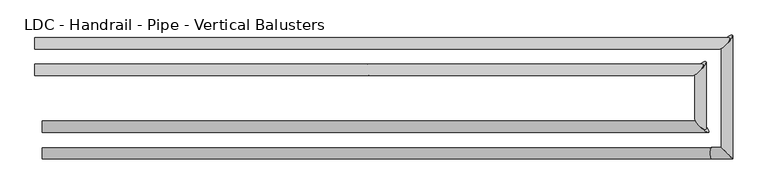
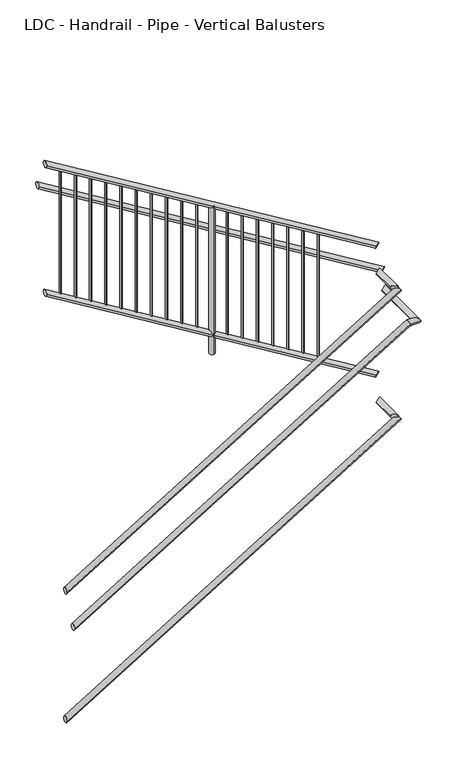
"""IFC4 building model written with IfcOpenShell, lengths in millimetres: railing geometry, LDC - Handrail - Pipe - Vertical Balusters."""

from ifc_helpers import new_model, si_unit, point, frame, frame_2d, origin, place, context, project, spatial, circle_curve, ellipse_curve, trimmed, segment, composite_curve, outline, extrude, source, transform, mapped, element, save
from ifc_brep_helpers import plane_surface, cylinder_surface, advanced_brep


def ldc_handrail_pipe_vertical_balusters_60b1d99e(model_context):
    return source(origin(), model_context, "Body", "SolidModel", [
        advanced_brep(
        [(-2909.3516552, 9306.877236, 1214.5008594), (-2909.3516552, 9344.977236, 1214.5008594), (-679.7253407, 9306.877236, 2571.109569), (-712.2739044, 9344.977236, 2551.3055037)],
        [
            (0, 1, ellipse_curve(frame((-2909.3516552, 9325.927236, 1214.5008594), z_axis=(-1.0, 0.0, 0.0), x_axis=(0.0, 0.0, -1.0)), 22.2991406, 19.05)),
            (1, 0, ellipse_curve(frame((-2909.3516552, 9325.927236, 1214.5008594), z_axis=(-1.0, 0.0, 0.0), x_axis=(0.0, 0.0, -1.0)), 22.2991406, 19.05)),
            (2, 3, ellipse_curve(frame((-695.9996225, 9325.927236, 2561.2075363), z_axis=(0.6040763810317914, 0.7071067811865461, 0.36754826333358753), x_axis=(-0.604076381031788, 0.7071067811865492, -0.36754826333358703)), 26.9407684, 19.05)),
            (3, 2, ellipse_curve(frame((-695.9996225, 9325.927236, 2561.2075363), z_axis=(0.6040763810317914, 0.7071067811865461, 0.36754826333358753), x_axis=(-0.604076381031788, 0.7071067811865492, -0.36754826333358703)), 26.9407684, 19.05)),
            (0, 2),
            (3, 1),
        ],
        [
            plane_surface(frame((-2909.3516552, 9325.927236, 1236.8), z_axis=(-1.0, 0.0, 0.0), x_axis=(0.0, 1.0, 0.0))),
            plane_surface(frame((-705.9016552, 9325.927236, 2577.4818182), z_axis=(0.6040763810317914, 0.7071067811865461, 0.36754826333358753), x_axis=(0.7969264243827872, -0.5359923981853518, -0.2786044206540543))),
            cylinder_surface(frame((-2899.4496225, 9325.927236, 1220.5257181), z_axis=(-0.8542930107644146, 0.0, -0.519791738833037), x_axis=(0.0, 1.0, 0.0)), 19.05),
        ],
        [
            (0, [[1, 2]]),
            (1, [[3, 4]]),
            (2, [[-1, 5, -4, 6]]),
            (2, [[-2, -6, -3, -5]]),
        ],
    ),
        advanced_brep(
        [(-686.8516552, 9319.5549868, 2577.75), (-724.9516552, 9352.1035505, 2577.75), (-686.8516552, 9542.6035505, 2577.75), (-724.9516552, 9510.0549868, 2577.75)],
        [
            (0, 1, ellipse_curve(frame((-705.9016552, 9335.8292686, 2577.75), z_axis=(-0.6040763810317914, -0.7071067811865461, -0.36754826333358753), x_axis=(0.6040763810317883, -0.7071067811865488, 0.36754826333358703)), 26.9407684, 19.05)),
            (1, 0, ellipse_curve(frame((-705.9016552, 9335.8292686, 2577.75), z_axis=(-0.6040763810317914, -0.7071067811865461, -0.36754826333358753), x_axis=(0.6040763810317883, -0.7071067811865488, 0.36754826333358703)), 26.9407684, 19.05)),
            (2, 3, ellipse_curve(frame((-705.9016552, 9526.3292686, 2577.75), z_axis=(-0.6040763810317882, 0.7071067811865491, 0.3675482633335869), x_axis=(-0.6040763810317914, -0.7071067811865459, 0.3675482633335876)), 26.9407684, 19.05)),
            (3, 2, ellipse_curve(frame((-705.9016552, 9526.3292686, 2577.75), z_axis=(-0.6040763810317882, 0.7071067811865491, 0.3675482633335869), x_axis=(-0.6040763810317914, -0.7071067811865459, 0.3675482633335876)), 26.9407684, 19.05)),
            (0, 2),
            (3, 1),
        ],
        [
            plane_surface(frame((-705.9016552, 9325.927236, 2596.8), z_axis=(-0.6040763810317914, -0.7071067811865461, -0.36754826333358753), x_axis=(0.7969264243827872, -0.5359923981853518, -0.2786044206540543))),
            plane_surface(frame((-705.9016552, 9516.427236, 2596.8), z_axis=(-0.6040763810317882, 0.7071067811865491, 0.3675482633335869), x_axis=(0.7969264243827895, 0.5359923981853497, 0.2786044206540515))),
            cylinder_surface(frame((-705.9016552, 9325.927236, 2577.75), z_axis=(0.0, -1.0, 0.0), x_axis=(-1.0, 0.0, 0.0)), 19.05),
        ],
        [
            (0, [[1, 2]]),
            (1, [[3, 4]]),
            (2, [[-1, 5, -4, 6]]),
            (2, [[-2, -6, -3, -5]]),
        ],
    ),
        advanced_brep(
        [(-699.5294059, 9535.477236, 2759.9418673), (-732.0779697, 9497.377236, 2779.7459326), (-2934.7516552, 9535.477236, 4119.9554048), (-2934.7516552, 9497.377236, 4119.9554048)],
        [
            (0, 1, ellipse_curve(frame((-715.8036878, 9516.427236, 2769.8439), z_axis=(0.6040763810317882, -0.7071067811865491, -0.3675482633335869), x_axis=(0.6040763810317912, 0.7071067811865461, -0.3675482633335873)), 26.9407684, 19.05)),
            (1, 0, ellipse_curve(frame((-715.8036878, 9516.427236, 2769.8439), z_axis=(0.6040763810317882, -0.7071067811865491, -0.3675482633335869), x_axis=(0.6040763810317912, 0.7071067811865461, -0.3675482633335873)), 26.9407684, 19.05)),
            (2, 3, ellipse_curve(frame((-2934.7516552, 9516.427236, 4119.9554048), z_axis=(-1.0, 0.0, 0.0), x_axis=(0.0, 0.0, -1.0)), 22.2991406, 19.05)),
            (3, 2, ellipse_curve(frame((-2934.7516552, 9516.427236, 4119.9554048), z_axis=(-1.0, 0.0, 0.0), x_axis=(0.0, 0.0, -1.0)), 22.2991406, 19.05)),
            (0, 2),
            (3, 1),
        ],
        [
            plane_surface(frame((-705.9016552, 9516.427236, 2786.1181818), z_axis=(0.6040763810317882, -0.7071067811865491, -0.3675482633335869), x_axis=(0.7969264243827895, 0.5359923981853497, 0.2786044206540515))),
            plane_surface(frame((-2934.7516552, 9516.427236, 4142.2545455), z_axis=(-1.0, 0.0, 0.0), x_axis=(0.0, -1.0, 0.0))),
            cylinder_surface(frame((-715.8036878, 9516.427236, 2769.8439), z_axis=(0.8542930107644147, 0.0, -0.5197917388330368), x_axis=(0.0, -1.0, 0.0)), 19.05),
        ],
        [
            (0, [[1, 2]]),
            (1, [[3, 4]]),
            (2, [[-1, 5, -4, 6]]),
            (2, [[-2, -6, -3, -5]]),
        ],
    ),
        advanced_brep(
        [(-2909.3516552, 9306.877236, 304.8633594), (-2909.3516552, 9344.977236, 304.8633594), (-679.7253407, 9306.877236, 1661.472069), (-712.2739044, 9344.977236, 1641.6680037)],
        [
            (0, 1, ellipse_curve(frame((-2909.3516552, 9325.927236, 304.8633594), z_axis=(-1.0, 0.0, 0.0), x_axis=(0.0, 0.0, -1.0)), 22.2991406, 19.05)),
            (1, 0, ellipse_curve(frame((-2909.3516552, 9325.927236, 304.8633594), z_axis=(-1.0, 0.0, 0.0), x_axis=(0.0, 0.0, -1.0)), 22.2991406, 19.05)),
            (2, 3, ellipse_curve(frame((-695.9996225, 9325.927236, 1651.5700363), z_axis=(0.6040763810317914, 0.7071067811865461, 0.3675482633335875), x_axis=(-0.6040763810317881, 0.7071067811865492, -0.367548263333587)), 26.9407684, 19.05)),
            (3, 2, ellipse_curve(frame((-695.9996225, 9325.927236, 1651.5700363), z_axis=(0.6040763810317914, 0.7071067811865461, 0.3675482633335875), x_axis=(-0.6040763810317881, 0.7071067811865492, -0.367548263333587)), 26.9407684, 19.05)),
            (0, 2),
            (3, 1),
        ],
        [
            plane_surface(frame((-2909.3516552, 9325.927236, 327.1625), z_axis=(-1.0, 0.0, 0.0), x_axis=(0.0, 1.0, 0.0))),
            plane_surface(frame((-705.9016552, 9325.927236, 1667.8443182), z_axis=(0.6040763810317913, 0.707106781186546, 0.3675482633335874), x_axis=(0.796926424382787, -0.5359923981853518, -0.2786044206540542))),
            cylinder_surface(frame((-2899.4496225, 9325.927236, 310.8882181), z_axis=(-0.8542930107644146, 0.0, -0.5197917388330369), x_axis=(0.0, 1.0, 0.0)), 19.05),
        ],
        [
            (0, [[1, 2]]),
            (1, [[3, 4]]),
            (2, [[-1, 5, -4, 6]]),
            (2, [[-2, -6, -3, -5]]),
        ],
    ),
        advanced_brep(
        [(-686.8516552, 9319.5549868, 1668.1125), (-724.9516552, 9352.1035505, 1668.1125), (-686.8516552, 9542.6035505, 1668.1125), (-724.9516552, 9510.0549868, 1668.1125)],
        [
            (0, 1, ellipse_curve(frame((-705.9016552, 9335.8292686, 1668.1125), z_axis=(-0.6040763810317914, -0.7071067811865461, -0.3675482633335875), x_axis=(0.6040763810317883, -0.7071067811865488, 0.3675482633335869)), 26.9407684, 19.05)),
            (1, 0, ellipse_curve(frame((-705.9016552, 9335.8292686, 1668.1125), z_axis=(-0.6040763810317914, -0.7071067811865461, -0.3675482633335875), x_axis=(0.6040763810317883, -0.7071067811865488, 0.3675482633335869)), 26.9407684, 19.05)),
            (2, 3, ellipse_curve(frame((-705.9016552, 9526.3292686, 1668.1125), z_axis=(-0.6040763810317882, 0.7071067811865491, 0.3675482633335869), x_axis=(-0.6040763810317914, -0.7071067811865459, 0.3675482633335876)), 26.9407684, 19.05)),
            (3, 2, ellipse_curve(frame((-705.9016552, 9526.3292686, 1668.1125), z_axis=(-0.6040763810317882, 0.7071067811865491, 0.3675482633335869), x_axis=(-0.6040763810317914, -0.7071067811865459, 0.3675482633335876)), 26.9407684, 19.05)),
            (0, 2),
            (3, 1),
        ],
        [
            plane_surface(frame((-705.9016552, 9325.927236, 1687.1625), z_axis=(-0.6040763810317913, -0.707106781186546, -0.3675482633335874), x_axis=(0.796926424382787, -0.5359923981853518, -0.2786044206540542))),
            plane_surface(frame((-705.9016552, 9516.427236, 1687.1625), z_axis=(-0.6040763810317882, 0.7071067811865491, 0.3675482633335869), x_axis=(0.7969264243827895, 0.5359923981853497, 0.2786044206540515))),
            cylinder_surface(frame((-705.9016552, 9325.927236, 1668.1125), z_axis=(0.0, -1.0, 0.0), x_axis=(-1.0, 0.0, 0.0)), 19.05),
        ],
        [
            (0, [[1, 2]]),
            (1, [[3, 4]]),
            (2, [[-1, 5, -4, 6]]),
            (2, [[-2, -6, -3, -5]]),
        ],
    ),
        advanced_brep(
        [(-699.5294059, 9535.477236, 1850.3043673), (-732.0779697, 9497.377236, 1870.1084326), (-2934.7516552, 9535.477236, 3210.3179048), (-2934.7516552, 9497.377236, 3210.3179048)],
        [
            (0, 1, ellipse_curve(frame((-715.8036878, 9516.427236, 1860.2064), z_axis=(0.6040763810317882, -0.7071067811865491, -0.3675482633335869), x_axis=(0.6040763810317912, 0.7071067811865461, -0.3675482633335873)), 26.9407684, 19.05)),
            (1, 0, ellipse_curve(frame((-715.8036878, 9516.427236, 1860.2064), z_axis=(0.6040763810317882, -0.7071067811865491, -0.3675482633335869), x_axis=(0.6040763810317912, 0.7071067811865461, -0.3675482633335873)), 26.9407684, 19.05)),
            (2, 3, ellipse_curve(frame((-2934.7516552, 9516.427236, 3210.3179048), z_axis=(-1.0, 0.0, 0.0), x_axis=(0.0, 0.0, -1.0)), 22.2991406, 19.05)),
            (3, 2, ellipse_curve(frame((-2934.7516552, 9516.427236, 3210.3179048), z_axis=(-1.0, 0.0, 0.0), x_axis=(0.0, 0.0, -1.0)), 22.2991406, 19.05)),
            (0, 2),
            (3, 1),
        ],
        [
            plane_surface(frame((-705.9016552, 9516.427236, 1876.4806818), z_axis=(0.6040763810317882, -0.7071067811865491, -0.3675482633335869), x_axis=(0.7969264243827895, 0.5359923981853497, 0.2786044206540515))),
            plane_surface(frame((-2934.7516552, 9516.427236, 3232.6170455), z_axis=(-1.0, 0.0, 0.0), x_axis=(0.0, -1.0, 0.0))),
            cylinder_surface(frame((-715.8036878, 9516.427236, 1860.2064), z_axis=(0.8542930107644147, 0.0, -0.5197917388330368), x_axis=(0.0, -1.0, 0.0)), 19.05),
        ],
        [
            (0, [[1, 2]]),
            (1, [[3, 4]]),
            (2, [[-1, 5, -4, 6]]),
            (2, [[-2, -6, -3, -5]]),
        ],
    ),
        advanced_brep(
        [(-2909.3516552, 9217.977236, 1011.3008594), (-2909.3516552, 9256.077236, 1011.3008594), (-668.811597, 9217.977236, 2374.55), (-668.811597, 9256.077236, 2374.55), (-597.9516552, 9217.977236, 2374.55), (-636.0516552, 9256.077236, 2374.55), (-597.9516552, 9631.5035505, 2374.55), (-636.0516552, 9598.9549868, 2374.55)],
        [
            (0, 1, ellipse_curve(frame((-2909.3516552, 9237.027236, 1011.3008594), z_axis=(-1.0, 0.0, 0.0), x_axis=(0.0, 0.0, -1.0)), 22.2991406, 19.05)),
            (1, 0, ellipse_curve(frame((-2909.3516552, 9237.027236, 1011.3008594), z_axis=(-1.0, 0.0, 0.0), x_axis=(0.0, 0.0, -1.0)), 22.2991406, 19.05)),
            (0, 2),
            (2, 3, ellipse_curve(frame((-668.811597, 9237.027236, 2374.55), z_axis=(-0.9628844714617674, 0.0, -0.2699138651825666), x_axis=(0.2699138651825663, 0.0, -0.9628844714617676)), 19.7843049, 19.05)),
            (3, 1),
            (3, 2, ellipse_curve(frame((-668.811597, 9237.027236, 2374.55), z_axis=(-0.9628844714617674, 0.0, -0.2699138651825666), x_axis=(0.2699138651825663, 0.0, -0.9628844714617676)), 19.7843049, 19.05)),
            (2, 4),
            (4, 5, ellipse_curve(frame((-617.0016552, 9237.027236, 2374.55), z_axis=(-0.7071067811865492, -0.7071067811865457, 0.0), x_axis=(-0.7071067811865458, 0.7071067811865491, 0.0)), 26.9407684, 19.05)),
            (5, 3),
            (5, 4, ellipse_curve(frame((-617.0016552, 9237.027236, 2374.55), z_axis=(-0.7071067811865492, -0.7071067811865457, 0.0), x_axis=(-0.7071067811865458, 0.7071067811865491, 0.0)), 26.9407684, 19.05)),
            (6, 7, ellipse_curve(frame((-617.0016552, 9615.2292686, 2374.55), z_axis=(-0.6040763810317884, 0.7071067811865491, 0.3675482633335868), x_axis=(-0.6040763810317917, -0.7071067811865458, 0.36754826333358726)), 26.9407684, 19.05)),
            (7, 6, ellipse_curve(frame((-617.0016552, 9615.2292686, 2374.55), z_axis=(-0.6040763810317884, 0.7071067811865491, 0.3675482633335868), x_axis=(-0.6040763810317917, -0.7071067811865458, 0.36754826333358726)), 26.9407684, 19.05)),
            (4, 6),
            (7, 5),
        ],
        [
            plane_surface(frame((-2909.3516552, 9237.027236, 1033.6), z_axis=(-1.0, 0.0, 0.0), x_axis=(0.0, 1.0, 0.0))),
            cylinder_surface(frame((-2899.4496225, 9237.027236, 1017.3257181), z_axis=(-0.8542930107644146, 0.0, -0.5197917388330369), x_axis=(0.0, 1.0, 0.0)), 19.05),
            cylinder_surface(frame((-674.1516552, 9237.027236, 2374.55), z_axis=(-1.0, 0.0, 0.0), x_axis=(0.0, 1.0, 0.0)), 19.05),
            plane_surface(frame((-617.0016552, 9605.327236, 2393.6), z_axis=(-0.6040763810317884, 0.7071067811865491, 0.3675482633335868), x_axis=(0.7969264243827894, 0.5359923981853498, 0.2786044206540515))),
            cylinder_surface(frame((-617.0016552, 9237.027236, 2374.55), z_axis=(0.0, -1.0, 0.0), x_axis=(-1.0, 0.0, 0.0)), 19.05),
        ],
        [
            (0, [[1, 2]]),
            (1, [[-1, 3, 4, 5]]),
            (1, [[-2, -5, 6, -3]]),
            (2, [[-4, 7, 8, 9]]),
            (2, [[-6, -9, 10, -7]]),
            (3, [[11, 12]]),
            (4, [[-8, 13, -12, 14]]),
            (4, [[-10, -14, -11, -13]]),
        ],
    ),
        advanced_brep(
        [(-610.6294059, 9624.377236, 2502.6509582), (-643.1779697, 9586.277236, 2522.4550235), (-2934.7516552, 9624.377236, 3916.7554048), (-2934.7516552, 9586.277236, 3916.7554048)],
        [
            (0, 1, ellipse_curve(frame((-626.9036878, 9605.327236, 2512.5529909), z_axis=(0.6040763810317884, -0.7071067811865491, -0.3675482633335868), x_axis=(0.6040763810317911, 0.7071067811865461, -0.3675482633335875)), 26.9407684, 19.05)),
            (1, 0, ellipse_curve(frame((-626.9036878, 9605.327236, 2512.5529909), z_axis=(0.6040763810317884, -0.7071067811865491, -0.3675482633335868), x_axis=(0.6040763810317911, 0.7071067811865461, -0.3675482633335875)), 26.9407684, 19.05)),
            (2, 3, ellipse_curve(frame((-2934.7516552, 9605.327236, 3916.7554048), z_axis=(-1.0, 0.0, 0.0), x_axis=(0.0, 0.0, -1.0)), 22.2991406, 19.05)),
            (3, 2, ellipse_curve(frame((-2934.7516552, 9605.327236, 3916.7554048), z_axis=(-1.0, 0.0, 0.0), x_axis=(0.0, 0.0, -1.0)), 22.2991406, 19.05)),
            (0, 2),
            (3, 1),
        ],
        [
            plane_surface(frame((-617.0016552, 9605.327236, 2528.8272727), z_axis=(0.6040763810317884, -0.7071067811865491, -0.3675482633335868), x_axis=(0.7969264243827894, 0.5359923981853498, 0.2786044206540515))),
            plane_surface(frame((-2934.7516552, 9605.327236, 3939.0545455), z_axis=(-1.0, 0.0, 0.0), x_axis=(0.0, -1.0, 0.0))),
            cylinder_surface(frame((-626.9036878, 9605.327236, 2512.5529909), z_axis=(0.8542930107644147, 0.0, -0.5197917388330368), x_axis=(0.0, -1.0, 0.0)), 19.05),
        ],
        [
            (0, [[1, 2]]),
            (1, [[3, 4]]),
            (2, [[-1, 5, -4, 6]]),
            (2, [[-2, -6, -3, -5]]),
        ],
    ),
        advanced_brep(
        [(-2833.4402915, 9510.077236, 4036.0608883), (-2833.4402915, 9522.777236, 4036.0608883), (-2833.4402915, 9522.777236, 3170.9744835), (-2833.4402915, 9510.077236, 3170.9744835)],
        [
            (0, 1, ellipse_curve(frame((-2833.4402915, 9516.427236, 4036.0608883), z_axis=(-0.5183017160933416, 0.0, -0.8551978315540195), x_axis=(-0.8551978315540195, 0.0, 0.5183017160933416)), 7.4251825, 6.35)),
            (1, 2),
            (2, 3, ellipse_curve(frame((-2833.4402915, 9516.427236, 3170.9744835), z_axis=(0.5183017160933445, 0.0, 0.8551978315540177), x_axis=(-0.8551978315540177, 0.0, 0.5183017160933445)), 7.4251825, 6.35)),
            (3, 0),
            (3, 2, ellipse_curve(frame((-2833.4402915, 9516.427236, 3170.9744835), z_axis=(0.5183017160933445, 0.0, 0.8551978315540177), x_axis=(-0.8551978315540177, 0.0, 0.5183017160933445)), 7.4251825, 6.35)),
            (1, 0, ellipse_curve(frame((-2833.4402915, 9516.427236, 4036.0608883), z_axis=(-0.5183017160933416, 0.0, -0.8551978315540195), x_axis=(-0.8551978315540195, 0.0, 0.5183017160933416)), 7.4251825, 6.35)),
        ],
        [
            cylinder_surface(frame((-2833.4402915, 9516.427236, 2942.3744835), z_axis=(0.0, 0.0, 1.0), x_axis=(0.0, 1.0, 0.0)), 6.35),
            plane_surface(frame((-2846.1402915, 9529.127236, 4043.757858), z_axis=(0.5183017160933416, 0.0, 0.8551978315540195), x_axis=(0.0, -1.0, 0.0))),
            plane_surface(frame((-2820.7402915, 9529.127236, 3163.2775138), z_axis=(-0.5183017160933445, 0.0, -0.8551978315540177), x_axis=(0.0, -1.0, 0.0))),
        ],
        [
            (0, [[1, 2, 3, 4]]),
            (0, [[5, -2, 6, -4]]),
            (1, [[-6, -1]]),
            (2, [[-5, -3]]),
        ],
    ),
        advanced_brep(
        [(-2732.1289279, 9510.077236, 3974.4183263), (-2732.1289279, 9522.777236, 3974.4183263), (-2732.1289279, 9522.777236, 3109.3319215), (-2732.1289279, 9510.077236, 3109.3319215)],
        [
            (0, 1, ellipse_curve(frame((-2732.1289279, 9516.427236, 3974.4183263), z_axis=(-0.5183017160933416, 0.0, -0.8551978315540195), x_axis=(-0.8551978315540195, 0.0, 0.5183017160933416)), 7.4251825, 6.35)),
            (1, 2),
            (2, 3, ellipse_curve(frame((-2732.1289279, 9516.427236, 3109.3319215), z_axis=(0.5183017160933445, 0.0, 0.8551978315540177), x_axis=(-0.8551978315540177, 0.0, 0.5183017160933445)), 7.4251825, 6.35)),
            (3, 0),
            (3, 2, ellipse_curve(frame((-2732.1289279, 9516.427236, 3109.3319215), z_axis=(0.5183017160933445, 0.0, 0.8551978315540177), x_axis=(-0.8551978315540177, 0.0, 0.5183017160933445)), 7.4251825, 6.35)),
            (1, 0, ellipse_curve(frame((-2732.1289279, 9516.427236, 3974.4183263), z_axis=(-0.5183017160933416, 0.0, -0.8551978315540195), x_axis=(-0.8551978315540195, 0.0, 0.5183017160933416)), 7.4251825, 6.35)),
        ],
        [
            cylinder_surface(frame((-2732.1289279, 9516.427236, 2880.7319215), z_axis=(0.0, 0.0, 1.0), x_axis=(0.0, 1.0, 0.0)), 6.35),
            plane_surface(frame((-2744.8289279, 9529.127236, 3982.115296), z_axis=(0.5183017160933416, 0.0, 0.8551978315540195), x_axis=(0.0, -1.0, 0.0))),
            plane_surface(frame((-2719.4289279, 9529.127236, 3101.6349518), z_axis=(-0.5183017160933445, 0.0, -0.8551978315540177), x_axis=(0.0, -1.0, 0.0))),
        ],
        [
            (0, [[1, 2, 3, 4]]),
            (0, [[5, -2, 6, -4]]),
            (1, [[-6, -1]]),
            (2, [[-5, -3]]),
        ],
    ),
        advanced_brep(
        [(-2630.8175643, 9510.077236, 3912.7757643), (-2630.8175643, 9522.777236, 3912.7757643), (-2630.8175643, 9522.777236, 3047.6893595), (-2630.8175643, 9510.077236, 3047.6893595)],
        [
            (0, 1, ellipse_curve(frame((-2630.8175643, 9516.427236, 3912.7757643), z_axis=(-0.5183017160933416, 0.0, -0.8551978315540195), x_axis=(-0.8551978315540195, 0.0, 0.5183017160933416)), 7.4251825, 6.35)),
            (1, 2),
            (2, 3, ellipse_curve(frame((-2630.8175643, 9516.427236, 3047.6893595), z_axis=(0.5183017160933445, 0.0, 0.8551978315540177), x_axis=(-0.8551978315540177, 0.0, 0.5183017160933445)), 7.4251825, 6.35)),
            (3, 0),
            (3, 2, ellipse_curve(frame((-2630.8175643, 9516.427236, 3047.6893595), z_axis=(0.5183017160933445, 0.0, 0.8551978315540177), x_axis=(-0.8551978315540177, 0.0, 0.5183017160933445)), 7.4251825, 6.35)),
            (1, 0, ellipse_curve(frame((-2630.8175643, 9516.427236, 3912.7757643), z_axis=(-0.5183017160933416, 0.0, -0.8551978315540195), x_axis=(-0.8551978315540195, 0.0, 0.5183017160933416)), 7.4251825, 6.35)),
        ],
        [
            cylinder_surface(frame((-2630.8175643, 9516.427236, 2819.0893595), z_axis=(0.0, 0.0, 1.0), x_axis=(0.0, 1.0, 0.0)), 6.35),
            plane_surface(frame((-2643.5175643, 9529.127236, 3920.472734), z_axis=(0.5183017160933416, 0.0, 0.8551978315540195), x_axis=(0.0, -1.0, 0.0))),
            plane_surface(frame((-2618.1175643, 9529.127236, 3039.9923898), z_axis=(-0.5183017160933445, 0.0, -0.8551978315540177), x_axis=(0.0, -1.0, 0.0))),
        ],
        [
            (0, [[1, 2, 3, 4]]),
            (0, [[5, -2, 6, -4]]),
            (1, [[-6, -1]]),
            (2, [[-5, -3]]),
        ],
    ),
        advanced_brep(
        [(-2529.5062006, 9510.077236, 3851.1332023), (-2529.5062006, 9522.777236, 3851.1332023), (-2529.5062006, 9522.777236, 2986.0467975), (-2529.5062006, 9510.077236, 2986.0467975)],
        [
            (0, 1, ellipse_curve(frame((-2529.5062006, 9516.427236, 3851.1332023), z_axis=(-0.5183017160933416, 0.0, -0.8551978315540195), x_axis=(-0.8551978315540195, 0.0, 0.5183017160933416)), 7.4251825, 6.35)),
            (1, 2),
            (2, 3, ellipse_curve(frame((-2529.5062006, 9516.427236, 2986.0467975), z_axis=(0.5183017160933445, 0.0, 0.8551978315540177), x_axis=(-0.8551978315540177, 0.0, 0.5183017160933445)), 7.4251825, 6.35)),
            (3, 0),
            (3, 2, ellipse_curve(frame((-2529.5062006, 9516.427236, 2986.0467975), z_axis=(0.5183017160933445, 0.0, 0.8551978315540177), x_axis=(-0.8551978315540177, 0.0, 0.5183017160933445)), 7.4251825, 6.35)),
            (1, 0, ellipse_curve(frame((-2529.5062006, 9516.427236, 3851.1332023), z_axis=(-0.5183017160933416, 0.0, -0.8551978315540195), x_axis=(-0.8551978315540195, 0.0, 0.5183017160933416)), 7.4251825, 6.35)),
        ],
        [
            cylinder_surface(frame((-2529.5062006, 9516.427236, 2757.4467975), z_axis=(0.0, 0.0, 1.0), x_axis=(0.0, 1.0, 0.0)), 6.35),
            plane_surface(frame((-2542.2062006, 9529.127236, 3858.830172), z_axis=(0.5183017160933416, 0.0, 0.8551978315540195), x_axis=(0.0, -1.0, 0.0))),
            plane_surface(frame((-2516.8062006, 9529.127236, 2978.3498278), z_axis=(-0.5183017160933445, 0.0, -0.8551978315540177), x_axis=(0.0, -1.0, 0.0))),
        ],
        [
            (0, [[1, 2, 3, 4]]),
            (0, [[5, -2, 6, -4]]),
            (1, [[-6, -1]]),
            (2, [[-5, -3]]),
        ],
    ),
        advanced_brep(
        [(-2428.194837, 9510.077236, 3789.4906403), (-2428.194837, 9522.777236, 3789.4906403), (-2428.194837, 9522.777236, 2924.4042355), (-2428.194837, 9510.077236, 2924.4042355)],
        [
            (0, 1, ellipse_curve(frame((-2428.194837, 9516.427236, 3789.4906403), z_axis=(-0.5183017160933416, 0.0, -0.8551978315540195), x_axis=(-0.8551978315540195, 0.0, 0.5183017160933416)), 7.4251825, 6.35)),
            (1, 2),
            (2, 3, ellipse_curve(frame((-2428.194837, 9516.427236, 2924.4042355), z_axis=(0.5183017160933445, 0.0, 0.8551978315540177), x_axis=(-0.8551978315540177, 0.0, 0.5183017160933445)), 7.4251825, 6.35)),
            (3, 0),
            (3, 2, ellipse_curve(frame((-2428.194837, 9516.427236, 2924.4042355), z_axis=(0.5183017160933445, 0.0, 0.8551978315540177), x_axis=(-0.8551978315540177, 0.0, 0.5183017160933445)), 7.4251825, 6.35)),
            (1, 0, ellipse_curve(frame((-2428.194837, 9516.427236, 3789.4906403), z_axis=(-0.5183017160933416, 0.0, -0.8551978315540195), x_axis=(-0.8551978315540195, 0.0, 0.5183017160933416)), 7.4251825, 6.35)),
        ],
        [
            cylinder_surface(frame((-2428.194837, 9516.427236, 2695.8042355), z_axis=(0.0, 0.0, 1.0), x_axis=(0.0, 1.0, 0.0)), 6.35),
            plane_surface(frame((-2440.894837, 9529.127236, 3797.18761), z_axis=(0.5183017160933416, 0.0, 0.8551978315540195), x_axis=(0.0, -1.0, 0.0))),
            plane_surface(frame((-2415.494837, 9529.127236, 2916.7072658), z_axis=(-0.5183017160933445, 0.0, -0.8551978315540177), x_axis=(0.0, -1.0, 0.0))),
        ],
        [
            (0, [[1, 2, 3, 4]]),
            (0, [[5, -2, 6, -4]]),
            (1, [[-6, -1]]),
            (2, [[-5, -3]]),
        ],
    ),
        advanced_brep(
        [(-2326.8834734, 9510.077236, 3727.8480784), (-2326.8834734, 9522.777236, 3727.8480784), (-2326.8834734, 9522.777236, 2862.7616736), (-2326.8834734, 9510.077236, 2862.7616736)],
        [
            (0, 1, ellipse_curve(frame((-2326.8834734, 9516.427236, 3727.8480784), z_axis=(-0.5183017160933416, 0.0, -0.8551978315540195), x_axis=(-0.8551978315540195, 0.0, 0.5183017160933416)), 7.4251825, 6.35)),
            (1, 2),
            (2, 3, ellipse_curve(frame((-2326.8834734, 9516.427236, 2862.7616736), z_axis=(0.5183017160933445, 0.0, 0.8551978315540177), x_axis=(-0.8551978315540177, 0.0, 0.5183017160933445)), 7.4251825, 6.35)),
            (3, 0),
            (3, 2, ellipse_curve(frame((-2326.8834734, 9516.427236, 2862.7616736), z_axis=(0.5183017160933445, 0.0, 0.8551978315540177), x_axis=(-0.8551978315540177, 0.0, 0.5183017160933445)), 7.4251825, 6.35)),
            (1, 0, ellipse_curve(frame((-2326.8834734, 9516.427236, 3727.8480784), z_axis=(-0.5183017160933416, 0.0, -0.8551978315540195), x_axis=(-0.8551978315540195, 0.0, 0.5183017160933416)), 7.4251825, 6.35)),
        ],
        [
            cylinder_surface(frame((-2326.8834734, 9516.427236, 2634.1616736), z_axis=(0.0, 0.0, 1.0), x_axis=(0.0, 1.0, 0.0)), 6.35),
            plane_surface(frame((-2339.5834734, 9529.127236, 3735.5450481), z_axis=(0.5183017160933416, 0.0, 0.8551978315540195), x_axis=(0.0, -1.0, 0.0))),
            plane_surface(frame((-2314.1834734, 9529.127236, 2855.0647039), z_axis=(-0.5183017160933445, 0.0, -0.8551978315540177), x_axis=(0.0, -1.0, 0.0))),
        ],
        [
            (0, [[1, 2, 3, 4]]),
            (0, [[5, -2, 6, -4]]),
            (1, [[-6, -1]]),
            (2, [[-5, -3]]),
        ],
    ),
        advanced_brep(
        [(-2225.5721097, 9510.077236, 3666.2055164), (-2225.5721097, 9522.777236, 3666.2055164), (-2225.5721097, 9522.777236, 2801.1191116), (-2225.5721097, 9510.077236, 2801.1191116)],
        [
            (0, 1, ellipse_curve(frame((-2225.5721097, 9516.427236, 3666.2055164), z_axis=(-0.5183017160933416, 0.0, -0.8551978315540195), x_axis=(-0.8551978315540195, 0.0, 0.5183017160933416)), 7.4251825, 6.35)),
            (1, 2),
            (2, 3, ellipse_curve(frame((-2225.5721097, 9516.427236, 2801.1191116), z_axis=(0.5183017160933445, 0.0, 0.8551978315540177), x_axis=(-0.8551978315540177, 0.0, 0.5183017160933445)), 7.4251825, 6.35)),
            (3, 0),
            (3, 2, ellipse_curve(frame((-2225.5721097, 9516.427236, 2801.1191116), z_axis=(0.5183017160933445, 0.0, 0.8551978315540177), x_axis=(-0.8551978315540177, 0.0, 0.5183017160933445)), 7.4251825, 6.35)),
            (1, 0, ellipse_curve(frame((-2225.5721097, 9516.427236, 3666.2055164), z_axis=(-0.5183017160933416, 0.0, -0.8551978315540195), x_axis=(-0.8551978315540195, 0.0, 0.5183017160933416)), 7.4251825, 6.35)),
        ],
        [
            cylinder_surface(frame((-2225.5721097, 9516.427236, 2572.5191116), z_axis=(0.0, 0.0, 1.0), x_axis=(0.0, 1.0, 0.0)), 6.35),
            plane_surface(frame((-2238.2721097, 9529.127236, 3673.9024861), z_axis=(0.5183017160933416, 0.0, 0.8551978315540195), x_axis=(0.0, -1.0, 0.0))),
            plane_surface(frame((-2212.8721097, 9529.127236, 2793.4221419), z_axis=(-0.5183017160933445, 0.0, -0.8551978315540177), x_axis=(0.0, -1.0, 0.0))),
        ],
        [
            (0, [[1, 2, 3, 4]]),
            (0, [[5, -2, 6, -4]]),
            (1, [[-6, -1]]),
            (2, [[-5, -3]]),
        ],
    ),
        advanced_brep(
        [(-2124.2607461, 9510.077236, 3604.5629544), (-2124.2607461, 9522.777236, 3604.5629544), (-2124.2607461, 9522.777236, 2739.4765496), (-2124.2607461, 9510.077236, 2739.4765496)],
        [
            (0, 1, ellipse_curve(frame((-2124.2607461, 9516.427236, 3604.5629544), z_axis=(-0.5183017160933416, 0.0, -0.8551978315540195), x_axis=(-0.8551978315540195, 0.0, 0.5183017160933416)), 7.4251825, 6.35)),
            (1, 2),
            (2, 3, ellipse_curve(frame((-2124.2607461, 9516.427236, 2739.4765496), z_axis=(0.5183017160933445, 0.0, 0.8551978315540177), x_axis=(-0.8551978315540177, 0.0, 0.5183017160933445)), 7.4251825, 6.35)),
            (3, 0),
            (3, 2, ellipse_curve(frame((-2124.2607461, 9516.427236, 2739.4765496), z_axis=(0.5183017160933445, 0.0, 0.8551978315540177), x_axis=(-0.8551978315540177, 0.0, 0.5183017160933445)), 7.4251825, 6.35)),
            (1, 0, ellipse_curve(frame((-2124.2607461, 9516.427236, 3604.5629544), z_axis=(-0.5183017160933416, 0.0, -0.8551978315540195), x_axis=(-0.8551978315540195, 0.0, 0.5183017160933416)), 7.4251825, 6.35)),
        ],
        [
            cylinder_surface(frame((-2124.2607461, 9516.427236, 2510.8765496), z_axis=(0.0, 0.0, 1.0), x_axis=(0.0, 1.0, 0.0)), 6.35),
            plane_surface(frame((-2136.9607461, 9529.127236, 3612.2599241), z_axis=(0.5183017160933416, 0.0, 0.8551978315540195), x_axis=(0.0, -1.0, 0.0))),
            plane_surface(frame((-2111.5607461, 9529.127236, 2731.7795799), z_axis=(-0.5183017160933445, 0.0, -0.8551978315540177), x_axis=(0.0, -1.0, 0.0))),
        ],
        [
            (0, [[1, 2, 3, 4]]),
            (0, [[5, -2, 6, -4]]),
            (1, [[-6, -1]]),
            (2, [[-5, -3]]),
        ],
    ),
        advanced_brep(
        [(-2022.9493824, 9510.077236, 3542.9203924), (-2022.9493824, 9522.777236, 3542.9203924), (-2022.9493824, 9522.777236, 2677.8339876), (-2022.9493824, 9510.077236, 2677.8339876)],
        [
            (0, 1, ellipse_curve(frame((-2022.9493824, 9516.427236, 3542.9203924), z_axis=(-0.5183017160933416, 0.0, -0.8551978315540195), x_axis=(-0.8551978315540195, 0.0, 0.5183017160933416)), 7.4251825, 6.35)),
            (1, 2),
            (2, 3, ellipse_curve(frame((-2022.9493824, 9516.427236, 2677.8339876), z_axis=(0.5183017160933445, 0.0, 0.8551978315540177), x_axis=(-0.8551978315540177, 0.0, 0.5183017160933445)), 7.4251825, 6.35)),
            (3, 0),
            (3, 2, ellipse_curve(frame((-2022.9493824, 9516.427236, 2677.8339876), z_axis=(0.5183017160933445, 0.0, 0.8551978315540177), x_axis=(-0.8551978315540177, 0.0, 0.5183017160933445)), 7.4251825, 6.35)),
            (1, 0, ellipse_curve(frame((-2022.9493824, 9516.427236, 3542.9203924), z_axis=(-0.5183017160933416, 0.0, -0.8551978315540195), x_axis=(-0.8551978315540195, 0.0, 0.5183017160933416)), 7.4251825, 6.35)),
        ],
        [
            cylinder_surface(frame((-2022.9493824, 9516.427236, 2449.2339876), z_axis=(0.0, 0.0, 1.0), x_axis=(0.0, 1.0, 0.0)), 6.35),
            plane_surface(frame((-2035.6493824, 9529.127236, 3550.6173621), z_axis=(0.5183017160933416, 0.0, 0.8551978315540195), x_axis=(0.0, -1.0, 0.0))),
            plane_surface(frame((-2010.2493824, 9529.127236, 2670.1370179), z_axis=(-0.5183017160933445, 0.0, -0.8551978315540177), x_axis=(0.0, -1.0, 0.0))),
        ],
        [
            (0, [[1, 2, 3, 4]]),
            (0, [[5, -2, 6, -4]]),
            (1, [[-6, -1]]),
            (2, [[-5, -3]]),
        ],
    ),
        advanced_brep(
        [(-1921.6380188, 9510.077236, 3481.2778304), (-1921.6380188, 9522.777236, 3481.2778304), (-1921.6380188, 9522.777236, 2616.1914256), (-1921.6380188, 9510.077236, 2616.1914256)],
        [
            (0, 1, ellipse_curve(frame((-1921.6380188, 9516.427236, 3481.2778304), z_axis=(-0.5183017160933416, 0.0, -0.8551978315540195), x_axis=(-0.8551978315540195, 0.0, 0.5183017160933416)), 7.4251825, 6.35)),
            (1, 2),
            (2, 3, ellipse_curve(frame((-1921.6380188, 9516.427236, 2616.1914256), z_axis=(0.5183017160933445, 0.0, 0.8551978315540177), x_axis=(-0.8551978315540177, 0.0, 0.5183017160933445)), 7.4251825, 6.35)),
            (3, 0),
            (3, 2, ellipse_curve(frame((-1921.6380188, 9516.427236, 2616.1914256), z_axis=(0.5183017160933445, 0.0, 0.8551978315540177), x_axis=(-0.8551978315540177, 0.0, 0.5183017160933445)), 7.4251825, 6.35)),
            (1, 0, ellipse_curve(frame((-1921.6380188, 9516.427236, 3481.2778304), z_axis=(-0.5183017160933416, 0.0, -0.8551978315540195), x_axis=(-0.8551978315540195, 0.0, 0.5183017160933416)), 7.4251825, 6.35)),
        ],
        [
            cylinder_surface(frame((-1921.6380188, 9516.427236, 2387.5914256), z_axis=(0.0, 0.0, 1.0), x_axis=(0.0, 1.0, 0.0)), 6.35),
            plane_surface(frame((-1934.3380188, 9529.127236, 3488.9748001), z_axis=(0.5183017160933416, 0.0, 0.8551978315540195), x_axis=(0.0, -1.0, 0.0))),
            plane_surface(frame((-1908.9380188, 9529.127236, 2608.4944559), z_axis=(-0.5183017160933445, 0.0, -0.8551978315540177), x_axis=(0.0, -1.0, 0.0))),
        ],
        [
            (0, [[1, 2, 3, 4]]),
            (0, [[5, -2, 6, -4]]),
            (1, [[-6, -1]]),
            (2, [[-5, -3]]),
        ],
    ),
        extrude(outline(composite_curve([segment(trimmed(circle_curve(frame_2d((-1820.3266552, 9516.427236)), 19.05), [point((-1820.3266552, 9535.477236))], [point((-1820.3266552, 9497.377236))], False, "CARTESIAN"), True, "CONTINUOUS"), segment(trimmed(circle_curve(frame_2d((-1820.3266552, 9516.427236)), 19.05), [point((-1820.3266552, 9497.377236))], [point((-1820.3266552, 9535.477236))], False, "CARTESIAN"), True, "CONTINUOUS")], self_intersect=False)), frame((0.0, 0.0, 2397.3863636), z_axis=(0.0, 0.0, 1.0), x_axis=(1.0, 0.0, 0.0)), (0.0, 0.0, 1.0), 1047.75),
        advanced_brep(
        [(-1820.3266552, 9510.077236, 3419.6352684), (-1820.3266552, 9522.777236, 3419.6352684), (-1820.3266552, 9522.777236, 2554.5488636), (-1820.3266552, 9510.077236, 2554.5488636)],
        [
            (0, 1, ellipse_curve(frame((-1820.3266552, 9516.427236, 3419.6352684), z_axis=(-0.5183017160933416, 0.0, -0.8551978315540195), x_axis=(-0.8551978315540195, 0.0, 0.5183017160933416)), 7.4251825, 6.35)),
            (1, 2),
            (2, 3, ellipse_curve(frame((-1820.3266552, 9516.427236, 2554.5488636), z_axis=(0.5183017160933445, 0.0, 0.8551978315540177), x_axis=(-0.8551978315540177, 0.0, 0.5183017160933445)), 7.4251825, 6.35)),
            (3, 0),
            (3, 2, ellipse_curve(frame((-1820.3266552, 9516.427236, 2554.5488636), z_axis=(0.5183017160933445, 0.0, 0.8551978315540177), x_axis=(-0.8551978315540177, 0.0, 0.5183017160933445)), 7.4251825, 6.35)),
            (1, 0, ellipse_curve(frame((-1820.3266552, 9516.427236, 3419.6352684), z_axis=(-0.5183017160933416, 0.0, -0.8551978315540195), x_axis=(-0.8551978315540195, 0.0, 0.5183017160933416)), 7.4251825, 6.35)),
        ],
        [
            cylinder_surface(frame((-1820.3266552, 9516.427236, 2325.9488636), z_axis=(0.0, 0.0, 1.0), x_axis=(0.0, 1.0, 0.0)), 6.35),
            plane_surface(frame((-1833.0266552, 9529.127236, 3427.3322381), z_axis=(0.5183017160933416, 0.0, 0.8551978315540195), x_axis=(0.0, -1.0, 0.0))),
            plane_surface(frame((-1807.6266552, 9529.127236, 2546.8518939), z_axis=(-0.5183017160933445, 0.0, -0.8551978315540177), x_axis=(0.0, -1.0, 0.0))),
        ],
        [
            (0, [[1, 2, 3, 4]]),
            (0, [[5, -2, 6, -4]]),
            (1, [[-6, -1]]),
            (2, [[-5, -3]]),
        ],
    ),
        advanced_brep(
        [(-1719.0152915, 9510.077236, 3357.9927065), (-1719.0152915, 9522.777236, 3357.9927065), (-1719.0152915, 9522.777236, 2492.9063017), (-1719.0152915, 9510.077236, 2492.9063017)],
        [
            (0, 1, ellipse_curve(frame((-1719.0152915, 9516.427236, 3357.9927065), z_axis=(-0.5183017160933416, 0.0, -0.8551978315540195), x_axis=(-0.8551978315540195, 0.0, 0.5183017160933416)), 7.4251825, 6.35)),
            (1, 2),
            (2, 3, ellipse_curve(frame((-1719.0152915, 9516.427236, 2492.9063017), z_axis=(0.5183017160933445, 0.0, 0.8551978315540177), x_axis=(-0.8551978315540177, 0.0, 0.5183017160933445)), 7.4251825, 6.35)),
            (3, 0),
            (3, 2, ellipse_curve(frame((-1719.0152915, 9516.427236, 2492.9063017), z_axis=(0.5183017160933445, 0.0, 0.8551978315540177), x_axis=(-0.8551978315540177, 0.0, 0.5183017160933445)), 7.4251825, 6.35)),
            (1, 0, ellipse_curve(frame((-1719.0152915, 9516.427236, 3357.9927065), z_axis=(-0.5183017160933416, 0.0, -0.8551978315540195), x_axis=(-0.8551978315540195, 0.0, 0.5183017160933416)), 7.4251825, 6.35)),
        ],
        [
            cylinder_surface(frame((-1719.0152915, 9516.427236, 2264.3063017), z_axis=(0.0, 0.0, 1.0), x_axis=(0.0, 1.0, 0.0)), 6.35),
            plane_surface(frame((-1731.7152915, 9529.127236, 3365.6896762), z_axis=(0.5183017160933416, 0.0, 0.8551978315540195), x_axis=(0.0, -1.0, 0.0))),
            plane_surface(frame((-1706.3152915, 9529.127236, 2485.209332), z_axis=(-0.5183017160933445, 0.0, -0.8551978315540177), x_axis=(0.0, -1.0, 0.0))),
        ],
        [
            (0, [[1, 2, 3, 4]]),
            (0, [[5, -2, 6, -4]]),
            (1, [[-6, -1]]),
            (2, [[-5, -3]]),
        ],
    ),
        advanced_brep(
        [(-1617.7039279, 9510.077236, 3296.3501445), (-1617.7039279, 9522.777236, 3296.3501445), (-1617.7039279, 9522.777236, 2431.2637397), (-1617.7039279, 9510.077236, 2431.2637397)],
        [
            (0, 1, ellipse_curve(frame((-1617.7039279, 9516.427236, 3296.3501445), z_axis=(-0.5183017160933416, 0.0, -0.8551978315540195), x_axis=(-0.8551978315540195, 0.0, 0.5183017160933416)), 7.4251825, 6.35)),
            (1, 2),
            (2, 3, ellipse_curve(frame((-1617.7039279, 9516.427236, 2431.2637397), z_axis=(0.5183017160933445, 0.0, 0.8551978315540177), x_axis=(-0.8551978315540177, 0.0, 0.5183017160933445)), 7.4251825, 6.35)),
            (3, 0),
            (3, 2, ellipse_curve(frame((-1617.7039279, 9516.427236, 2431.2637397), z_axis=(0.5183017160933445, 0.0, 0.8551978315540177), x_axis=(-0.8551978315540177, 0.0, 0.5183017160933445)), 7.4251825, 6.35)),
            (1, 0, ellipse_curve(frame((-1617.7039279, 9516.427236, 3296.3501445), z_axis=(-0.5183017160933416, 0.0, -0.8551978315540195), x_axis=(-0.8551978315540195, 0.0, 0.5183017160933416)), 7.4251825, 6.35)),
        ],
        [
            cylinder_surface(frame((-1617.7039279, 9516.427236, 2202.6637397), z_axis=(0.0, 0.0, 1.0), x_axis=(0.0, 1.0, 0.0)), 6.35),
            plane_surface(frame((-1630.4039279, 9529.127236, 3304.0471142), z_axis=(0.5183017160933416, 0.0, 0.8551978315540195), x_axis=(0.0, -1.0, 0.0))),
            plane_surface(frame((-1605.0039279, 9529.127236, 2423.56677), z_axis=(-0.5183017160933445, 0.0, -0.8551978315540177), x_axis=(0.0, -1.0, 0.0))),
        ],
        [
            (0, [[1, 2, 3, 4]]),
            (0, [[5, -2, 6, -4]]),
            (1, [[-6, -1]]),
            (2, [[-5, -3]]),
        ],
    ),
        advanced_brep(
        [(-1516.3925643, 9510.077236, 3234.7075825), (-1516.3925643, 9522.777236, 3234.7075825), (-1516.3925643, 9522.777236, 2369.6211777), (-1516.3925643, 9510.077236, 2369.6211777)],
        [
            (0, 1, ellipse_curve(frame((-1516.3925643, 9516.427236, 3234.7075825), z_axis=(-0.5183017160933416, 0.0, -0.8551978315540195), x_axis=(-0.8551978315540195, 0.0, 0.5183017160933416)), 7.4251825, 6.35)),
            (1, 2),
            (2, 3, ellipse_curve(frame((-1516.3925643, 9516.427236, 2369.6211777), z_axis=(0.5183017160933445, 0.0, 0.8551978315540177), x_axis=(-0.8551978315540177, 0.0, 0.5183017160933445)), 7.4251825, 6.35)),
            (3, 0),
            (3, 2, ellipse_curve(frame((-1516.3925643, 9516.427236, 2369.6211777), z_axis=(0.5183017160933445, 0.0, 0.8551978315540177), x_axis=(-0.8551978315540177, 0.0, 0.5183017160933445)), 7.4251825, 6.35)),
            (1, 0, ellipse_curve(frame((-1516.3925643, 9516.427236, 3234.7075825), z_axis=(-0.5183017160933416, 0.0, -0.8551978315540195), x_axis=(-0.8551978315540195, 0.0, 0.5183017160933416)), 7.4251825, 6.35)),
        ],
        [
            cylinder_surface(frame((-1516.3925643, 9516.427236, 2141.0211777), z_axis=(0.0, 0.0, 1.0), x_axis=(0.0, 1.0, 0.0)), 6.35),
            plane_surface(frame((-1529.0925643, 9529.127236, 3242.4045522), z_axis=(0.5183017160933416, 0.0, 0.8551978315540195), x_axis=(0.0, -1.0, 0.0))),
            plane_surface(frame((-1503.6925643, 9529.127236, 2361.924208), z_axis=(-0.5183017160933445, 0.0, -0.8551978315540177), x_axis=(0.0, -1.0, 0.0))),
        ],
        [
            (0, [[1, 2, 3, 4]]),
            (0, [[5, -2, 6, -4]]),
            (1, [[-6, -1]]),
            (2, [[-5, -3]]),
        ],
    ),
        advanced_brep(
        [(-1415.0812006, 9510.077236, 3173.0650205), (-1415.0812006, 9522.777236, 3173.0650205), (-1415.0812006, 9522.777236, 2307.9786157), (-1415.0812006, 9510.077236, 2307.9786157)],
        [
            (0, 1, ellipse_curve(frame((-1415.0812006, 9516.427236, 3173.0650205), z_axis=(-0.5183017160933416, 0.0, -0.8551978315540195), x_axis=(-0.8551978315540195, 0.0, 0.5183017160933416)), 7.4251825, 6.35)),
            (1, 2),
            (2, 3, ellipse_curve(frame((-1415.0812006, 9516.427236, 2307.9786157), z_axis=(0.5183017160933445, 0.0, 0.8551978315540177), x_axis=(-0.8551978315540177, 0.0, 0.5183017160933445)), 7.4251825, 6.35)),
            (3, 0),
            (3, 2, ellipse_curve(frame((-1415.0812006, 9516.427236, 2307.9786157), z_axis=(0.5183017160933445, 0.0, 0.8551978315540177), x_axis=(-0.8551978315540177, 0.0, 0.5183017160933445)), 7.4251825, 6.35)),
            (1, 0, ellipse_curve(frame((-1415.0812006, 9516.427236, 3173.0650205), z_axis=(-0.5183017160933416, 0.0, -0.8551978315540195), x_axis=(-0.8551978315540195, 0.0, 0.5183017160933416)), 7.4251825, 6.35)),
        ],
        [
            cylinder_surface(frame((-1415.0812006, 9516.427236, 2079.3786157), z_axis=(0.0, 0.0, 1.0), x_axis=(0.0, 1.0, 0.0)), 6.35),
            plane_surface(frame((-1427.7812006, 9529.127236, 3180.7619902), z_axis=(0.5183017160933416, 0.0, 0.8551978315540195), x_axis=(0.0, -1.0, 0.0))),
            plane_surface(frame((-1402.3812006, 9529.127236, 2300.281646), z_axis=(-0.5183017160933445, 0.0, -0.8551978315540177), x_axis=(0.0, -1.0, 0.0))),
        ],
        [
            (0, [[1, 2, 3, 4]]),
            (0, [[5, -2, 6, -4]]),
            (1, [[-6, -1]]),
            (2, [[-5, -3]]),
        ],
    ),
        advanced_brep(
        [(-1313.769837, 9510.077236, 3111.4224585), (-1313.769837, 9522.777236, 3111.4224585), (-1313.769837, 9522.777236, 2246.3360537), (-1313.769837, 9510.077236, 2246.3360537)],
        [
            (0, 1, ellipse_curve(frame((-1313.769837, 9516.427236, 3111.4224585), z_axis=(-0.5183017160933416, 0.0, -0.8551978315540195), x_axis=(-0.8551978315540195, 0.0, 0.5183017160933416)), 7.4251825, 6.35)),
            (1, 2),
            (2, 3, ellipse_curve(frame((-1313.769837, 9516.427236, 2246.3360537), z_axis=(0.5183017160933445, 0.0, 0.8551978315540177), x_axis=(-0.8551978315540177, 0.0, 0.5183017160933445)), 7.4251825, 6.35)),
            (3, 0),
            (3, 2, ellipse_curve(frame((-1313.769837, 9516.427236, 2246.3360537), z_axis=(0.5183017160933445, 0.0, 0.8551978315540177), x_axis=(-0.8551978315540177, 0.0, 0.5183017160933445)), 7.4251825, 6.35)),
            (1, 0, ellipse_curve(frame((-1313.769837, 9516.427236, 3111.4224585), z_axis=(-0.5183017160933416, 0.0, -0.8551978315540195), x_axis=(-0.8551978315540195, 0.0, 0.5183017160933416)), 7.4251825, 6.35)),
        ],
        [
            cylinder_surface(frame((-1313.769837, 9516.427236, 2017.7360537), z_axis=(0.0, 0.0, 1.0), x_axis=(0.0, 1.0, 0.0)), 6.35),
            plane_surface(frame((-1326.469837, 9529.127236, 3119.1194282), z_axis=(0.5183017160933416, 0.0, 0.8551978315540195), x_axis=(0.0, -1.0, 0.0))),
            plane_surface(frame((-1301.069837, 9529.127236, 2238.639084), z_axis=(-0.5183017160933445, 0.0, -0.8551978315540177), x_axis=(0.0, -1.0, 0.0))),
        ],
        [
            (0, [[1, 2, 3, 4]]),
            (0, [[5, -2, 6, -4]]),
            (1, [[-6, -1]]),
            (2, [[-5, -3]]),
        ],
    ),
        advanced_brep(
        [(-1212.4584734, 9510.077236, 3049.7798965), (-1212.4584734, 9522.777236, 3049.7798965), (-1212.4584734, 9522.777236, 2184.6934917), (-1212.4584734, 9510.077236, 2184.6934917)],
        [
            (0, 1, ellipse_curve(frame((-1212.4584734, 9516.427236, 3049.7798965), z_axis=(-0.5183017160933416, 0.0, -0.8551978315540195), x_axis=(-0.8551978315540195, 0.0, 0.5183017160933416)), 7.4251825, 6.35)),
            (1, 2),
            (2, 3, ellipse_curve(frame((-1212.4584734, 9516.427236, 2184.6934917), z_axis=(0.5183017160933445, 0.0, 0.8551978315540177), x_axis=(-0.8551978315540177, 0.0, 0.5183017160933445)), 7.4251825, 6.35)),
            (3, 0),
            (3, 2, ellipse_curve(frame((-1212.4584734, 9516.427236, 2184.6934917), z_axis=(0.5183017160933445, 0.0, 0.8551978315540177), x_axis=(-0.8551978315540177, 0.0, 0.5183017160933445)), 7.4251825, 6.35)),
            (1, 0, ellipse_curve(frame((-1212.4584734, 9516.427236, 3049.7798965), z_axis=(-0.5183017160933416, 0.0, -0.8551978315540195), x_axis=(-0.8551978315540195, 0.0, 0.5183017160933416)), 7.4251825, 6.35)),
        ],
        [
            cylinder_surface(frame((-1212.4584734, 9516.427236, 1956.0934917), z_axis=(0.0, 0.0, 1.0), x_axis=(0.0, 1.0, 0.0)), 6.35),
            plane_surface(frame((-1225.1584734, 9529.127236, 3057.4768662), z_axis=(0.5183017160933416, 0.0, 0.8551978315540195), x_axis=(0.0, -1.0, 0.0))),
            plane_surface(frame((-1199.7584734, 9529.127236, 2176.996522), z_axis=(-0.5183017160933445, 0.0, -0.8551978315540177), x_axis=(0.0, -1.0, 0.0))),
        ],
        [
            (0, [[1, 2, 3, 4]]),
            (0, [[5, -2, 6, -4]]),
            (1, [[-6, -1]]),
            (2, [[-5, -3]]),
        ],
    ),
        advanced_brep(
        [(-1111.1471097, 9510.077236, 2988.1373346), (-1111.1471097, 9522.777236, 2988.1373346), (-1111.1471097, 9522.777236, 2123.0509298), (-1111.1471097, 9510.077236, 2123.0509298)],
        [
            (0, 1, ellipse_curve(frame((-1111.1471097, 9516.427236, 2988.1373346), z_axis=(-0.5183017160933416, 0.0, -0.8551978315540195), x_axis=(-0.8551978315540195, 0.0, 0.5183017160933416)), 7.4251825, 6.35)),
            (1, 2),
            (2, 3, ellipse_curve(frame((-1111.1471097, 9516.427236, 2123.0509298), z_axis=(0.5183017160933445, 0.0, 0.8551978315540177), x_axis=(-0.8551978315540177, 0.0, 0.5183017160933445)), 7.4251825, 6.35)),
            (3, 0),
            (3, 2, ellipse_curve(frame((-1111.1471097, 9516.427236, 2123.0509298), z_axis=(0.5183017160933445, 0.0, 0.8551978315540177), x_axis=(-0.8551978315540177, 0.0, 0.5183017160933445)), 7.4251825, 6.35)),
            (1, 0, ellipse_curve(frame((-1111.1471097, 9516.427236, 2988.1373346), z_axis=(-0.5183017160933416, 0.0, -0.8551978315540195), x_axis=(-0.8551978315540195, 0.0, 0.5183017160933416)), 7.4251825, 6.35)),
        ],
        [
            cylinder_surface(frame((-1111.1471097, 9516.427236, 1894.4509298), z_axis=(0.0, 0.0, 1.0), x_axis=(0.0, 1.0, 0.0)), 6.35),
            plane_surface(frame((-1123.8471097, 9529.127236, 2995.8343043), z_axis=(0.5183017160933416, 0.0, 0.8551978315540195), x_axis=(0.0, -1.0, 0.0))),
            plane_surface(frame((-1098.4471097, 9529.127236, 2115.3539601), z_axis=(-0.5183017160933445, 0.0, -0.8551978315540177), x_axis=(0.0, -1.0, 0.0))),
        ],
        [
            (0, [[1, 2, 3, 4]]),
            (0, [[5, -2, 6, -4]]),
            (1, [[-6, -1]]),
            (2, [[-5, -3]]),
        ],
    ),
    ])


if __name__ == "__main__":
    model = new_model("IFC4")
    model_context = context("Model", 3, world=origin())
    ifc_project = project(units=[si_unit("LENGTHUNIT", "METRE", prefix="MILLI")], contexts=[model_context])
    site = spatial("IfcSite", under=ifc_project)
    building = spatial("IfcBuilding", under=site)
    placement = place(None, origin())
    ldc_handrail_pipe_vertical_balusters_shape = ldc_handrail_pipe_vertical_balusters_60b1d99e(model_context)
    element("IfcRailing", 1, ObjectType="LDC - Handrail - Pipe - Vertical Balusters", at=placement, inside=building, context=model_context, shape_type="MappedRepresentation", body=[
        mapped(ldc_handrail_pipe_vertical_balusters_shape, transform((0.0, 0.0, 0.0), x_axis=(1.0, 0.0, 0.0), y_axis=(0.0, 1.0, 0.0), z_axis=(0.0, 0.0, 1.0))),
    ])
    save(model, "model.ifc")
